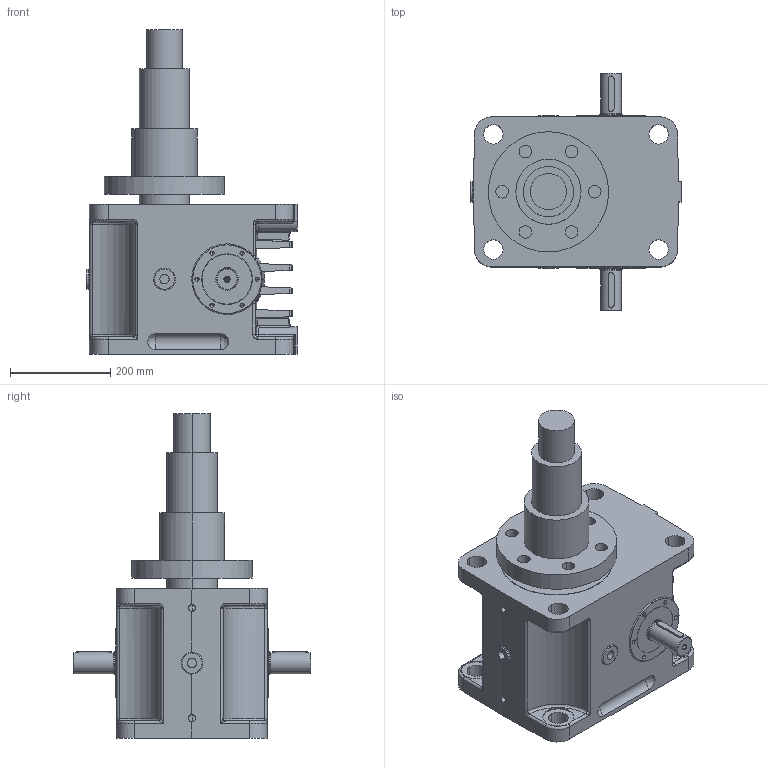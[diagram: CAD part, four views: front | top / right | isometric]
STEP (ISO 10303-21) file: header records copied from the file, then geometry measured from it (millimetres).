
FILE_DESCRIPTION(('STEP AP203'),'1');
FILE_NAME('hmc_35-lmn-kd-1f-z-0100-0270-tr100x16-bpos0.stp','2025-08-19T11:41:11',('TraceParts'),('TraceParts S.A.'),'Spatial InterOp 3D',' ',' ');
FILE_SCHEMA(('CONFIG_CONTROL_DESIGN'));
Length unit declared in the file: millimetre
Products named in the file (1): 1
Bounding box: 420 x 474 x 648 mm (x, y, z)
Volume: 33386637.2 mm3; surface area: 1069127 mm2
Topology: 3 solids, 3 shells, 471 faces, 1187 edges, 720 vertices
Faces by surface type: cylinder 212, plane 111, bspline 84, cone 52, torus 12
Entity records: 27804 total; most frequent: CARTESIAN_POINT 17367, ORIENTED_EDGE 2298, DIRECTION 1922, EDGE_CURVE 1149, AXIS2_PLACEMENT_3D 735, VERTEX_POINT 720, EDGE_LOOP 539, ADVANCED_FACE 471
